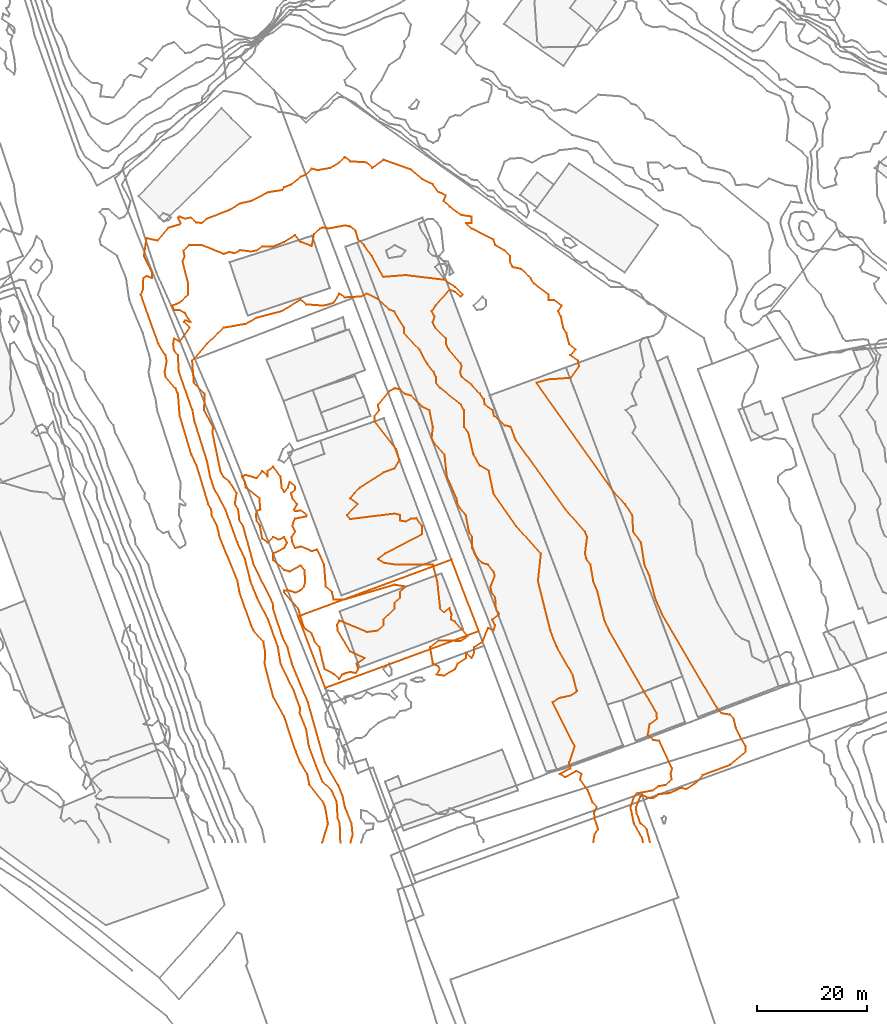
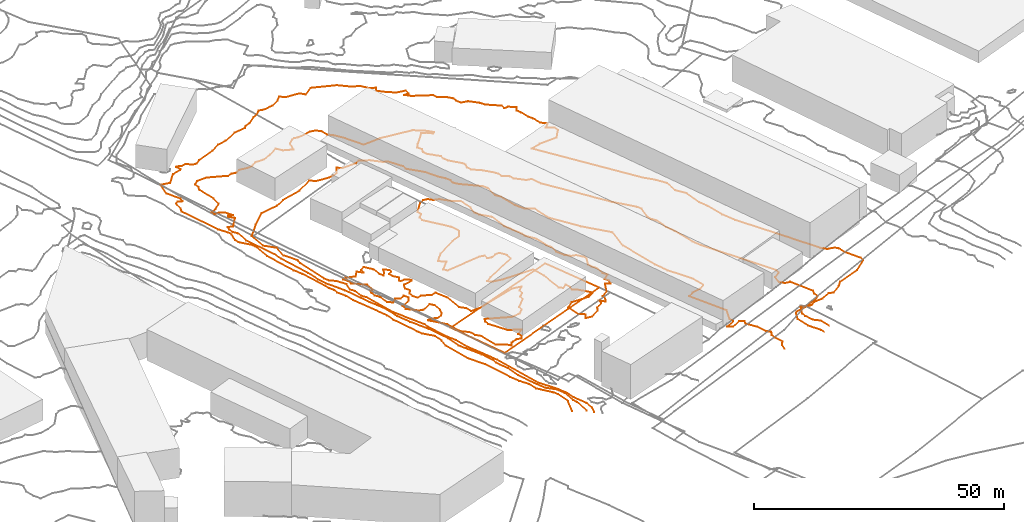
# Not in any storey, part 162 of 419: 6 proxies.
"""IFC2X3 model written with IfcOpenShell, lengths in metres."""

import ifcopenshell
import ifcopenshell.guid

model = None  # the IFC model being written
_history = None  # IfcOwnerHistory: only IFC2X3 demands one
_inside = {}  # id of a spatial element -> (the spatial element, [elements in it])
_under = {}  # id of a project, library or spatial element -> (it, [spatial elements below it])
_declared = {}  # id of a project -> (the project, [libraries it declares])
_typed = {}  # id of a type object -> (the type object, [elements of that type])
_made_of = {}  # id of a material, layer set ... -> (it, [elements and type objects made of it])


def new_model(schema):
    """Start an empty IFC model of exactly this schema.

    Asked for "IFC4X3", IfcOpenShell would pick the latest addendum, in which some entities
    have other attributes; the version numbers below select the first issue.
    IFC2X3 requires an IfcOwnerHistory on every rooted entity: one is made here for all.
    """
    global model, _history
    if schema == "IFC4X3":
        model = ifcopenshell.file(schema_version=(4, 3, 0, 0))
    else:
        model = ifcopenshell.file(schema=schema)
    _inside.clear()
    _under.clear()
    _declared.clear()
    _typed.clear()
    _made_of.clear()
    _history = None
    if model.schema == "IFC2X3":
        org = make("IfcOrganization", Name="unknown")
        user = make(
            "IfcPersonAndOrganization",
            ThePerson=make("IfcPerson", FamilyName="unknown"),
            TheOrganization=org,
        )
        app = make(
            "IfcApplication",
            ApplicationDeveloper=org,
            Version="unknown",
            ApplicationFullName="unknown",
            ApplicationIdentifier="unknown",
        )
        _history = make(
            "IfcOwnerHistory",
            OwningUser=user,
            OwningApplication=app,
            ChangeAction="ADDED",
            CreationDate=0,
        )
    return model


def make(cls, **values):
    """One entity of the class cls with the attributes given. An attribute that is None is left unset."""
    return model.create_entity(
        cls, **{name: value for name, value in values.items() if value is not None}
    )


def entity(cls, *values):
    """Any entity or typed value of the class cls, its attributes in the order of the schema. None: left unset."""
    e = model.create_entity(cls)
    for i, value in enumerate(values):
        if value is not None:
            e[i] = value
    return e


def rooted(cls, **values):
    """An entity with a GlobalId (a new one), such as an element, a storey or a relation."""
    return make(cls, GlobalId=ifcopenshell.guid.new(), OwnerHistory=_history, **values)


def si_unit(unit_type, name, prefix=None):
    """IfcSIUnit, for example si_unit("LENGTHUNIT", "METRE", prefix="MILLI")."""
    return make("IfcSIUnit", UnitType=unit_type, Prefix=prefix, Name=name)


def assignment(units):
    """IfcUnitAssignment: the units of a project."""
    return None if units is None else make("IfcUnitAssignment", Units=units)


def point(xyz):
    """IfcCartesianPoint."""
    return None if xyz is None else make("IfcCartesianPoint", Coordinates=xyz)


def direction(xyz):
    """IfcDirection."""
    return None if xyz is None else make("IfcDirection", DirectionRatios=xyz)


def frame(location, z_axis=None, x_axis=None):
    """IfcAxis2Placement3D, a coordinate frame: its origin and axes. An axis left out is left unset."""
    return make(
        "IfcAxis2Placement3D",
        Location=point(location),
        Axis=direction(z_axis),
        RefDirection=direction(x_axis),
    )


def origin_with_axes():
    """The frame at (0, 0, 0) with the z axis (0, 0, 1) and the x axis (1, 0, 0) written out."""
    return frame((0.0, 0.0, 0.0), z_axis=(0.0, 0.0, 1.0), x_axis=(1.0, 0.0, 0.0))


def place(relative_to, where):
    """IfcLocalPlacement: puts the frame where relative to a parent placement (None: the world)."""
    return make(
        "IfcLocalPlacement", PlacementRelTo=relative_to, RelativePlacement=where
    )


def context(
    kind, dimensions, precision=None, world=None, true_north=None, identifier=None
):
    """IfcGeometricRepresentationContext, for example the 3D "Model" context."""
    return make(
        "IfcGeometricRepresentationContext",
        ContextIdentifier=identifier,
        ContextType=kind,
        CoordinateSpaceDimension=dimensions,
        Precision=precision,
        WorldCoordinateSystem=world,
        TrueNorth=true_north,
    )


def subcontext(parent, identifier, kind, view, scale=None):
    """IfcGeometricRepresentationSubContext, for example "Body" below "Model"."""
    return make(
        "IfcGeometricRepresentationSubContext",
        ContextIdentifier=identifier,
        ContextType=kind,
        ParentContext=parent,
        TargetScale=scale,
        TargetView=view,
    )


def project(units=None, contexts=None):
    """IfcProject with its units and contexts."""
    return rooted(
        "IfcProject",
        Name="project",
        RepresentationContexts=contexts,
        UnitsInContext=assignment(units),
    )


def shape(context_of_items, identifier, shape_type, items):
    """IfcShapeRepresentation: the items that make up one representation, for example the "Body"."""
    return make(
        "IfcShapeRepresentation",
        ContextOfItems=context_of_items,
        RepresentationIdentifier=identifier,
        RepresentationType=shape_type,
        Items=items,
    )


def made_of(thing, what):
    """Note that an element or type object is made of a material, layer set ...; save() writes the relation."""
    if what is not None:
        _made_of.setdefault(what.id(), (what, []))[1].append(thing)
    return thing


def element(
    cls,
    number,
    at=None,
    inside=None,
    cuts=None,
    type_object=None,
    material=None,
    context=None,
    identifier="Body",
    shape_type=None,
    held_by="IfcProductDefinitionShape",
    body=None,
    shapes=None,
    **own,
):
    """One element of the class cls, such as IfcWall. Its Tag is "e" and its number.

    at: its placement. inside: the storey or other place that contains it. cuts: it is an
    opening in that element (IfcRelVoidsElement). A single representation is given by context,
    identifier, shape_type and body (its items); several are given by shapes. held_by: the class
    of the entity that holds the representations. save() writes the other relations.
    """
    e = rooted(cls, Tag="e%d" % number, ObjectPlacement=at, **own)
    if body is not None:
        shapes = [shape(context, identifier, shape_type, body)]
    if shapes is not None:
        e.Representation = make(held_by, Representations=shapes)
    if inside is not None:
        _inside.setdefault(inside.id(), (inside, []))[1].append(e)
    if cuts is not None:
        rooted(
            "IfcRelVoidsElement", RelatingBuildingElement=cuts, RelatedOpeningElement=e
        )
    if type_object is not None:
        _typed.setdefault(type_object.id(), (type_object, []))[1].append(e)
    return made_of(e, material)


def aggregate(whole, parts):
    """IfcRelAggregates: a whole, such as a stair, and the parts it consists of."""
    return rooted("IfcRelAggregates", RelatingObject=whole, RelatedObjects=parts)


def save(model, path):
    """Write the relations noted so far, then the file.

    IfcRelAggregates (storeys below a building ...), IfcRelContainedInSpatialStructure (elements
    in a storey), IfcRelDefinesByType, IfcRelAssociatesMaterial and IfcRelDeclares: one each for
    every whole, place, type object, material and project.
    """
    for whole, parts in _under.values():
        aggregate(whole, parts)
    for where, things in _inside.values():
        rooted(
            "IfcRelContainedInSpatialStructure",
            RelatedElements=things,
            RelatingStructure=where,
        )
    for kind, things in _typed.values():
        rooted("IfcRelDefinesByType", RelatedObjects=things, RelatingType=kind)
    for what, things in _made_of.values():
        rooted("IfcRelAssociatesMaterial", RelatedObjects=things, RelatingMaterial=what)
    for by, libraries in _declared.values():
        rooted("IfcRelDeclares", RelatingContext=by, RelatedDefinitions=libraries)
    model.write(path)


model = new_model("IFC2X3")

# Units and contexts
model_context = context("Model", 3, precision=1e-05, world=origin_with_axes())
body_context = subcontext(model_context, "Body", "Model", "MODEL_VIEW")
ifc_project = project(units=[si_unit("AREAUNIT", "SQUARE_METRE"), si_unit("LENGTHUNIT", "METRE")], contexts=[model_context])

# Proxies
proxy_1_placement = place(None, frame((340.6220204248, 39.4876909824, 20.0132113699), z_axis=(0.0, 0.0, 1.0), x_axis=(1.0, 0.0, 0.0)))
element("IfcBuildingElementProxy", 1, at=proxy_1_placement, Name="Cadastre 371", ObjectType="NOTDEFINED", context=body_context, shape_type="GeometricCurveSet", body=[
    entity("IfcGeometricCurveSet", [entity("IfcPolyline", [entity("IfcCartesianPoint", [0.0, 0.0, 0.0]), entity("IfcCartesianPoint", [27.83, 10.3100000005, -0.2680914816]), entity("IfcCartesianPoint", [32.8, -2.6899999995, -0.0289117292]), entity("IfcCartesianPoint", [4.9299999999, -12.9899999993, -0.007931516]), entity("IfcCartesianPoint", [0.0, 0.0, 0.0])])]),
])
proxy_2_placement = place(None, frame((330.4253537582, 64.8976909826, 20.0), z_axis=(0.0, 0.0, 1.0), x_axis=(1.0, 0.0, 0.0)))
element("IfcBuildingElementProxy", 2, at=proxy_2_placement, Name="Contour 20.0 m", ObjectType="NOTDEFINED", context=body_context, shape_type="GeometricCurveSet", body=[
    entity("IfcGeometricCurveSet", [entity("IfcPolyline", [entity("IfcCartesianPoint", [17.6666666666, -36.7999999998, 0.0]), entity("IfcCartesianPoint", [18.1666541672, -36.0, 0.0]), entity("IfcCartesianPoint", [18.6666666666, -35.7647006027, 0.0]), entity("IfcCartesianPoint", [19.6666666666, -35.4999916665, 0.0]), entity("IfcCartesianPoint", [20.6666666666, -35.7142779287, 0.0]), entity("IfcCartesianPoint", [21.0833306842, -35.0, 0.0]), entity("IfcCartesianPoint", [20.848488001, -34.0, 0.0]), entity("IfcCartesianPoint", [22.2666666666, -33.0, 0.0]), entity("IfcCartesianPoint", [19.6666666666, -31.7999999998, 0.0]), entity("IfcCartesianPoint", [17.3939409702, -28.0, 0.0]), entity("IfcCartesianPoint", [17.2738083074, -27.0, 0.0]), entity("IfcCartesianPoint", [17.6666666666, -26.1538484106, 0.0]), entity("IfcCartesianPoint", [22.6666666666, -28.2500059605, 0.0]), entity("IfcCartesianPoint", [24.6665666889, -28.0, 0.0]), entity("IfcCartesianPoint", [25.6665666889, -27.0, 0.0]), entity("IfcCartesianPoint", [25.6665666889, -26.0, 0.0]), entity("IfcCartesianPoint", [27.6665666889, -24.0, 0.0]), entity("IfcCartesianPoint", [27.6665666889, -23.0, 0.0]), entity("IfcCartesianPoint", [28.6665666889, -22.0, 0.0]), entity("IfcCartesianPoint", [28.6665666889, -21.0, 0.0]), entity("IfcCartesianPoint", [29.6665666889, -20.0, 0.0]), entity("IfcCartesianPoint", [27.6666666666, -19.666666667, 0.0]), entity("IfcCartesianPoint", [18.6666666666, -22.333333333, 0.0]), entity("IfcCartesianPoint", [16.6666666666, -22.4000000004, 0.0]), entity("IfcCartesianPoint", [16.3333375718, -21.0, 0.0]), entity("IfcCartesianPoint", [15.2222128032, -20.0, 0.0]), entity("IfcCartesianPoint", [14.9166642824, -16.0, 0.0]), entity("IfcCartesianPoint", [13.6666666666, -13.250003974, 0.0]), entity("IfcCartesianPoint", [12.6666666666, -13.5714285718, 0.0]), entity("IfcCartesianPoint", [10.6666666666, -12.7142779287, 0.0]), entity("IfcCartesianPoint", [9.6666666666, -13.0000249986, 0.0]), entity("IfcCartesianPoint", [9.1666166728, -12.0, 0.0]), entity("IfcCartesianPoint", [9.0, -11.0, 0.0]), entity("IfcCartesianPoint", [9.6666166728, -10.0, 0.0]), entity("IfcCartesianPoint", [9.1666166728, -9.0, 0.0]), entity("IfcCartesianPoint", [9.4166666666, -8.0, 0.0]), entity("IfcCartesianPoint", [9.6666666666, -7.666666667, 0.0]), entity("IfcCartesianPoint", [11.6666666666, -7.2500059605, 0.0]), entity("IfcCartesianPoint", [11.7619064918, -7.0, 0.0]), entity("IfcCartesianPoint", [10.6666666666, -6.1666719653, 0.0]), entity("IfcCartesianPoint", [9.6666666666, -6.333333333, 0.0]), entity("IfcCartesianPoint", [9.4999947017, -6.0, 0.0]), entity("IfcCartesianPoint", [10.0000052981, -5.0, 0.0]), entity("IfcCartesianPoint", [9.1666500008, -4.0, 0.0]), entity("IfcCartesianPoint", [8.9166666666, -3.0, 0.0]), entity("IfcCartesianPoint", [9.6666666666, -2.4000000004, 0.0]), entity("IfcCartesianPoint", [9.6666666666, -1.8333306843, 0.0]), entity("IfcCartesianPoint", [8.6666666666, -1.0000499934, 0.0]), entity("IfcCartesianPoint", [8.3333333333, -2.0, 0.0]), entity("IfcCartesianPoint", [7.6666666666, -2.7999999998, 0.0]), entity("IfcCartesianPoint", [7.2222128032, -2.0, 0.0]), entity("IfcCartesianPoint", [7.0, 0.0, 0.0]), entity("IfcCartesianPoint", [5.6666666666, 1.75, 0.0]), entity("IfcCartesianPoint", [4.666699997, 1.0, 0.0]), entity("IfcCartesianPoint", [4.6667166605, 0.0, 0.0]), entity("IfcCartesianPoint", [3.6666666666, 0.9999500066, 0.0]), entity("IfcCartesianPoint", [2.6666666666, -0.333333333, 0.0]), entity("IfcCartesianPoint", [0.6666666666, 0.2500059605, 0.0]), entity("IfcCartesianPoint", [0.0, 0.0, 0.0]), entity("IfcCartesianPoint", [0.5333299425, -1.0, 0.0]), entity("IfcCartesianPoint", [0.666699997, -2.0, 0.0]), entity("IfcCartesianPoint", [3.1667166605, -4.0, 0.0]), entity("IfcCartesianPoint", [3.3333333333, -6.0, 0.0]), entity("IfcCartesianPoint", [2.6666666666, -6.2857220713, 0.0]), entity("IfcCartesianPoint", [2.5277793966, -7.0, 0.0]), entity("IfcCartesianPoint", [2.6666666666, -7.9999800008, 0.0]), entity("IfcCartesianPoint", [3.2820546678, -9.0, 0.0]), entity("IfcCartesianPoint", [3.6666666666, -11.2941130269, 0.0]), entity("IfcCartesianPoint", [4.6666666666, -11.9999857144, 0.0]), entity("IfcCartesianPoint", [5.6666666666, -10.9999666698, 0.0]), entity("IfcCartesianPoint", [6.6666666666, -11.499983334, 0.0]), entity("IfcCartesianPoint", [7.6666666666, -10.9999000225, 0.0]), entity("IfcCartesianPoint", [8.1667166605, -12.0, 0.0]), entity("IfcCartesianPoint", [7.6666866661, -13.0, 0.0]), entity("IfcCartesianPoint", [5.666699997, -14.0, 0.0]), entity("IfcCartesianPoint", [5.6666666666, -15.2222269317, 0.0]), entity("IfcCartesianPoint", [7.6667166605, -17.0, 0.0]), entity("IfcCartesianPoint", [8.6666666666, -17.2500059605, 0.0]), entity("IfcCartesianPoint", [10.6666666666, -16.1428610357, 0.0]), entity("IfcCartesianPoint", [11.3333262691, -17.0, 0.0]), entity("IfcCartesianPoint", [11.4999947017, -19.0, 0.0]), entity("IfcCartesianPoint", [11.2380952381, -20.0, 0.0]), entity("IfcCartesianPoint", [10.6666666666, -20.666666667, 0.0]), entity("IfcCartesianPoint", [9.6666666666, -21.1250029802, 0.0]), entity("IfcCartesianPoint", [8.6666666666, -20.75, 0.0]), entity("IfcCartesianPoint", [7.6666666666, -20.75, 0.0]), entity("IfcCartesianPoint", [7.6296288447, -21.0, 0.0]), entity("IfcCartesianPoint", [10.2222233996, -24.0, 0.0]), entity("IfcCartesianPoint", [11.0877177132, -27.0, 0.0]), entity("IfcCartesianPoint", [11.6666666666, -27.8461515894, 0.0]), entity("IfcCartesianPoint", [12.6666666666, -28.4999900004, 0.0]), entity("IfcCartesianPoint", [13.2222128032, -30.0, 0.0]), entity("IfcCartesianPoint", [14.066674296, -31.0, 0.0]), entity("IfcCartesianPoint", [15.0, -35.0, 0.0]), entity("IfcCartesianPoint", [16.6666666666, -35.8571389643, 0.0]), entity("IfcCartesianPoint", [17.6666666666, -36.7999999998, 0.0])])]),
])
proxy_3_placement = place(None, frame((349.4920204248, 57.8976909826, 20.0), z_axis=(0.0, 0.0, 1.0), x_axis=(1.0, 0.0, 0.0)))
element("IfcBuildingElementProxy", 3, at=proxy_3_placement, Name="Contour 20.0 m", ObjectType="NOTDEFINED", context=body_context, shape_type="GeometricCurveSet", body=[
    entity("IfcGeometricCurveSet", [entity("IfcPolyline", [entity("IfcCartesianPoint", [17.6, -29.1666719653, 0.0]), entity("IfcCartesianPoint", [19.5999500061, -28.0, 0.0]), entity("IfcCartesianPoint", [20.0999500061, -27.0, 0.0]), entity("IfcCartesianPoint", [21.5999000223, -26.0, 0.0]), entity("IfcCartesianPoint", [21.5999500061, -25.0, 0.0]), entity("IfcCartesianPoint", [22.6, -25.9999500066, 0.0]), entity("IfcCartesianPoint", [23.0999750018, -25.0, 0.0]), entity("IfcCartesianPoint", [23.0999500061, -24.0, 0.0]), entity("IfcCartesianPoint", [24.6, -22.9999000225, 0.0]), entity("IfcCartesianPoint", [25.6, -20.4999500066, 0.0]), entity("IfcCartesianPoint", [26.6, -20.9999500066, 0.0]), entity("IfcCartesianPoint", [26.8857220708, -20.0, 0.0]), entity("IfcCartesianPoint", [26.35, -19.0, 0.0]), entity("IfcCartesianPoint", [27.6588248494, -18.0, 0.0]), entity("IfcCartesianPoint", [27.0444538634, -17.0, 0.0]), entity("IfcCartesianPoint", [26.910344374, -15.0, 0.0]), entity("IfcCartesianPoint", [26.2363628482, -14.0, 0.0]), entity("IfcCartesianPoint", [26.0705875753, -13.0, 0.0]), entity("IfcCartesianPoint", [26.8307726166, -11.0, 0.0]), entity("IfcCartesianPoint", [26.6, -10.25, 0.0]), entity("IfcCartesianPoint", [25.6, -9.0000199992, 0.0]), entity("IfcCartesianPoint", [24.6, -8.7499940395, 0.0]), entity("IfcCartesianPoint", [23.6, -7.7777730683, 0.0]), entity("IfcCartesianPoint", [22.7250029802, -6.0, 0.0]), entity("IfcCartesianPoint", [22.7200027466, -4.0, 0.0]), entity("IfcCartesianPoint", [22.1483882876, -3.0, 0.0]), entity("IfcCartesianPoint", [21.6, -0.1428610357, 0.0]), entity("IfcCartesianPoint", [20.0615373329, 2.0, 0.0]), entity("IfcCartesianPoint", [19.8916656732, 3.0, 0.0]), entity("IfcCartesianPoint", [18.1454561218, 7.0, 0.0]), entity("IfcCartesianPoint", [17.6952398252, 11.0, 0.0]), entity("IfcCartesianPoint", [15.8777760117, 13.0, 0.0]), entity("IfcCartesianPoint", [15.3647006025, 14.0, 0.0]), entity("IfcCartesianPoint", [15.5999909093, 16.0, 0.0]), entity("IfcCartesianPoint", [14.9846119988, 19.0, 0.0]), entity("IfcCartesianPoint", [13.6, 19.6666613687, 0.0]), entity("IfcCartesianPoint", [11.6, 21.666659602, 0.0]), entity("IfcCartesianPoint", [10.4333280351, 22.0, 0.0]), entity("IfcCartesianPoint", [9.6, 22.8333280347, 0.0]), entity("IfcCartesianPoint", [8.6, 22.9999800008, 0.0]), entity("IfcCartesianPoint", [7.6, 22.4000000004, 0.0]), entity("IfcCartesianPoint", [5.6000166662, 20.0, 0.0]), entity("IfcCartesianPoint", [5.8500059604, 19.0, 0.0]), entity("IfcCartesianPoint", [4.9750089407, 18.0, 0.0]), entity("IfcCartesianPoint", [4.9750009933, 17.0, 0.0]), entity("IfcCartesianPoint", [8.9333298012, 12.0, 0.0]), entity("IfcCartesianPoint", [9.5199981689, 10.0, 0.0]), entity("IfcCartesianPoint", [8.6, 8.4615373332, 0.0]), entity("IfcCartesianPoint", [6.6, 7.7142779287, 0.0]), entity("IfcCartesianPoint", [2.35, 5.0, 0.0]), entity("IfcCartesianPoint", [1.35, 4.0, 0.0]), entity("IfcCartesianPoint", [0.6000249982, 3.0, 0.0]), entity("IfcCartesianPoint", [1.9333333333, 2.0, 0.0]), entity("IfcCartesianPoint", [0.0, 0.0, 0.0]), entity("IfcCartesianPoint", [0.6, -0.75, 0.0]), entity("IfcCartesianPoint", [8.6, 0.25, 0.0]), entity("IfcCartesianPoint", [9.6000999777, 0.0, 0.0]), entity("IfcCartesianPoint", [9.6000999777, -1.0, 0.0]), entity("IfcCartesianPoint", [10.6, -1.2000000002, 0.0]), entity("IfcCartesianPoint", [11.6, -0.666666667, 0.0]), entity("IfcCartesianPoint", [12.6, -0.5999999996, 0.0]), entity("IfcCartesianPoint", [13.6, -1.9999923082, 0.0]), entity("IfcCartesianPoint", [13.6, -3.500016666, 0.0]), entity("IfcCartesianPoint", [6.9333333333, -7.0, 0.0]), entity("IfcCartesianPoint", [5.6000499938, -8.0, 0.0]), entity("IfcCartesianPoint", [6.6, -8.666666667, 0.0]), entity("IfcCartesianPoint", [8.6, -8.9999666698, 0.0]), entity("IfcCartesianPoint", [15.6, -8.999983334, 0.0]), entity("IfcCartesianPoint", [16.4, -12.0, 0.0]), entity("IfcCartesianPoint", [16.9333333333, -17.0, 0.0]), entity("IfcCartesianPoint", [17.6, -17.666666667, 0.0]), entity("IfcCartesianPoint", [18.6, -16.8888865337, 0.0]), entity("IfcCartesianPoint", [18.9684184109, -18.0, 0.0]), entity("IfcCartesianPoint", [18.8857220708, -19.0, 0.0]), entity("IfcCartesianPoint", [19.6, -19.3571389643, 0.0]), entity("IfcCartesianPoint", [21.9333333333, -22.0, 0.0]), entity("IfcCartesianPoint", [20.6, -22.8749970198, 0.0]), entity("IfcCartesianPoint", [16.6, -22.7878796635, 0.0]), entity("IfcCartesianPoint", [15.1000249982, -24.0, 0.0]), entity("IfcCartesianPoint", [15.6000999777, -27.0, 0.0]), entity("IfcCartesianPoint", [16.6, -27.4999500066, 0.0]), entity("IfcCartesianPoint", [16.85, -28.0, 0.0]), entity("IfcCartesianPoint", [16.2666666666, -29.0, 0.0]), entity("IfcCartesianPoint", [17.6, -29.1666719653, 0.0])])]),
])
proxy_4_placement = place(None, frame((321.3883169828, 85.8976909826, 21.0), z_axis=(0.0, 0.0, 1.0), x_axis=(1.0, 0.0, 0.0)))
element("IfcBuildingElementProxy", 4, at=proxy_4_placement, Name="Contour 21.0 m", ObjectType="NOTDEFINED", context=body_context, shape_type="GeometricCurveSet", body=[
    entity("IfcGeometricCurveSet", [entity("IfcPolyline", [entity("IfcCartesianPoint", [72.8287064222, -87.5, 0.0]), entity("IfcCartesianPoint", [73.0370367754, -86.0, 0.0]), entity("IfcCartesianPoint", [73.7036867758, -85.0, 0.0]), entity("IfcCartesianPoint", [73.0370438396, -83.0, 0.0]), entity("IfcCartesianPoint", [72.9894255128, -82.0, 0.0]), entity("IfcCartesianPoint", [73.453703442, -81.0, 0.0]), entity("IfcCartesianPoint", [72.703703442, -80.25, 0.0]), entity("IfcCartesianPoint", [71.8465644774, -78.0, 0.0]), entity("IfcCartesianPoint", [70.4179813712, -76.0, 0.0]), entity("IfcCartesianPoint", [70.7036701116, -75.0, 0.0]), entity("IfcCartesianPoint", [69.703703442, -74.500016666, 0.0]), entity("IfcCartesianPoint", [67.703703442, -75.6111134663, 0.0]), entity("IfcCartesianPoint", [66.7036995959, -75.0, 0.0]), entity("IfcCartesianPoint", [68.7036934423, -74.0, 0.0]), entity("IfcCartesianPoint", [68.4179813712, -73.0, 0.0]), entity("IfcCartesianPoint", [69.4536974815, -70.0, 0.0]), entity("IfcCartesianPoint", [65.4179813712, -62.0, 0.0]), entity("IfcCartesianPoint", [66.703703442, -61.2000038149, 0.0]), entity("IfcCartesianPoint", [68.703703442, -60.7999961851, 0.0]), entity("IfcCartesianPoint", [69.8465644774, -60.0, 0.0]), entity("IfcCartesianPoint", [69.0787123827, -57.0, 0.0]), entity("IfcCartesianPoint", [66.2036909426, -52.0, 0.0]), entity("IfcCartesianPoint", [65.0370438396, -49.0, 0.0]), entity("IfcCartesianPoint", [62.7870380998, -40.0, 0.0]), entity("IfcCartesianPoint", [63.3036958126, -35.0, 0.0]), entity("IfcCartesianPoint", [58.8287064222, -30.0, 0.0]), entity("IfcCartesianPoint", [54.703703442, -24.1428610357, 0.0]), entity("IfcCartesianPoint", [53.8575518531, -20.0, 0.0]), entity("IfcCartesianPoint", [52.2036909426, -19.0, 0.0]), entity("IfcCartesianPoint", [51.0608424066, -17.0, 0.0]), entity("IfcCartesianPoint", [50.1247544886, -13.0, 0.0]), entity("IfcCartesianPoint", [49.3703701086, -12.0, 0.0]), entity("IfcCartesianPoint", [49.3333322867, -9.0, 0.0]), entity("IfcCartesianPoint", [48.8089687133, -8.0, 0.0]), entity("IfcCartesianPoint", [45.0787004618, -5.0, 0.0]), entity("IfcCartesianPoint", [44.2491587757, -4.0, 0.0]), entity("IfcCartesianPoint", [44.2637010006, -3.0, 0.0]), entity("IfcCartesianPoint", [43.8370401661, -2.0, 0.0]), entity("IfcCartesianPoint", [42.703703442, -0.6363573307, 0.0]), entity("IfcCartesianPoint", [41.3037053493, 2.0, 0.0]), entity("IfcCartesianPoint", [38.4684040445, 5.0, 0.0]), entity("IfcCartesianPoint", [38.4684040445, 6.0, 0.0]), entity("IfcCartesianPoint", [36.703703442, 8.9090893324, 0.0]), entity("IfcCartesianPoint", [35.703703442, 9.333340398, 0.0]), entity("IfcCartesianPoint", [33.703703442, 11.1666719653, 0.0]), entity("IfcCartesianPoint", [31.703703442, 12.2000000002, 0.0]), entity("IfcCartesianPoint", [30.703703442, 11.666659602, 0.0]), entity("IfcCartesianPoint", [27.703703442, 11.499983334, 0.0]), entity("IfcCartesianPoint", [26.703703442, 12.2000038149, 0.0]), entity("IfcCartesianPoint", [25.703703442, 10.5333341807, 0.0]), entity("IfcCartesianPoint", [24.703703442, 10.2222269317, 0.0]), entity("IfcCartesianPoint", [23.703703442, 9.9999937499, 0.0]), entity("IfcCartesianPoint", [20.703703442, 10.2222269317, 0.0]), entity("IfcCartesianPoint", [19.703703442, 11.100001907, 0.0]), entity("IfcCartesianPoint", [16.2037201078, 9.0, 0.0]), entity("IfcCartesianPoint", [11.703703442, 7.8124955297, 0.0]), entity("IfcCartesianPoint", [9.703703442, 6.6956528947, 0.0]), entity("IfcCartesianPoint", [5.7037117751, 6.0, 0.0]), entity("IfcCartesianPoint", [2.703703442, 3.1250029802, 0.0]), entity("IfcCartesianPoint", [0.0, 0.0, 0.0]), entity("IfcCartesianPoint", [0.3004781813, -4.0, 0.0]), entity("IfcCartesianPoint", [2.2751320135, -6.0, 0.0]), entity("IfcCartesianPoint", [2.1627205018, -9.0, 0.0]), entity("IfcCartesianPoint", [3.8118137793, -12.0, 0.0]), entity("IfcCartesianPoint", [3.6759250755, -13.0, 0.0]), entity("IfcCartesianPoint", [5.1322733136, -20.0, 0.0]), entity("IfcCartesianPoint", [5.703703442, -21.1578979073, 0.0]), entity("IfcCartesianPoint", [6.8148169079, -22.0, 0.0]), entity("IfcCartesianPoint", [8.0537022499, -24.0, 0.0]), entity("IfcCartesianPoint", [7.7491591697, -26.0, 0.0]), entity("IfcCartesianPoint", [8.3507655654, -27.0, 0.0]), entity("IfcCartesianPoint", [8.5755000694, -29.0, 0.0]), entity("IfcCartesianPoint", [9.2554289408, -30.0, 0.0]), entity("IfcCartesianPoint", [11.1679900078, -37.0, 0.0]), entity("IfcCartesianPoint", [14.6322734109, -44.0, 0.0]), entity("IfcCartesianPoint", [14.6844722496, -45.0, 0.0]), entity("IfcCartesianPoint", [16.328703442, -50.0, 0.0]), entity("IfcCartesianPoint", [17.3074778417, -52.0, 0.0]), entity("IfcCartesianPoint", [18.0965597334, -55.0, 0.0]), entity("IfcCartesianPoint", [21.0085816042, -62.0, 0.0]), entity("IfcCartesianPoint", [24.1218850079, -73.0, 0.0]), entity("IfcCartesianPoint", [26.4795669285, -77.0, 0.0]), entity("IfcCartesianPoint", [27.3123987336, -79.0, 0.0]), entity("IfcCartesianPoint", [27.7212477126, -81.0, 0.0]), entity("IfcCartesianPoint", [28.9278399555, -84.0, 0.0]), entity("IfcCartesianPoint", [29.1322755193, -86.0, 0.0]), entity("IfcCartesianPoint", [28.740067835, -87.5, 0.0])])]),
])
proxy_5_placement = place(None, frame((317.7795248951, 95.8976909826, 22.0), z_axis=(0.0, 0.0, 1.0), x_axis=(1.0, 0.0, 0.0)))
element("IfcBuildingElementProxy", 5, at=proxy_5_placement, Name="Contour 22.0 m", ObjectType="NOTDEFINED", context=body_context, shape_type="GeometricCurveSet", body=[
    entity("IfcGeometricCurveSet", [entity("IfcPolyline", [entity("IfcCartesianPoint", [85.4636575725, -97.5, 0.0]), entity("IfcCartesianPoint", [85.3124955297, -96.638889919, 0.0]), entity("IfcCartesianPoint", [83.8067482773, -94.0, 0.0]), entity("IfcCartesianPoint", [83.185912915, -91.0, 0.0]), entity("IfcCartesianPoint", [83.9080010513, -89.0, 0.0]), entity("IfcCartesianPoint", [84.3124955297, -88.5662642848, 0.0]), entity("IfcCartesianPoint", [87.2324936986, -88.0, 0.0]), entity("IfcCartesianPoint", [88.3124955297, -87.2575759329, 0.0]), entity("IfcCartesianPoint", [89.5432625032, -87.0, 0.0]), entity("IfcCartesianPoint", [90.6761381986, -86.0, 0.0]), entity("IfcCartesianPoint", [90.4791674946, -85.0, 0.0]), entity("IfcCartesianPoint", [90.7499940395, -84.0, 0.0]), entity("IfcCartesianPoint", [88.3894197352, -79.0, 0.0]), entity("IfcCartesianPoint", [87.3124955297, -78.8571389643, 0.0]), entity("IfcCartesianPoint", [86.3124788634, -78.0, 0.0]), entity("IfcCartesianPoint", [86.645828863, -76.0, 0.0]), entity("IfcCartesianPoint", [87.9791621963, -75.0, 0.0]), entity("IfcCartesianPoint", [87.937486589, -74.0, 0.0]), entity("IfcCartesianPoint", [79.3124955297, -59.0000199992, 0.0]), entity("IfcCartesianPoint", [78.4236089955, -57.0, 0.0]), entity("IfcCartesianPoint", [77.2124936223, -52.0, 0.0]), entity("IfcCartesianPoint", [76.4236089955, -50.0, 0.0]), entity("IfcCartesianPoint", [75.9124879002, -47.0, 0.0]), entity("IfcCartesianPoint", [75.1874925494, -46.0, 0.0]), entity("IfcCartesianPoint", [74.9278835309, -45.0, 0.0]), entity("IfcCartesianPoint", [75.3124871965, -42.0, 0.0]), entity("IfcCartesianPoint", [74.9124879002, -41.0, 0.0]), entity("IfcCartesianPoint", [71.4236089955, -37.0, 0.0]), entity("IfcCartesianPoint", [62.3124955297, -24.2857220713, 0.0]), entity("IfcCartesianPoint", [61.4553565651, -22.0, 0.0]), entity("IfcCartesianPoint", [60.3124955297, -21.7272679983, 0.0]), entity("IfcCartesianPoint", [58.4374985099, -20.0, 0.0]), entity("IfcCartesianPoint", [58.1545976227, -19.0, 0.0]), entity("IfcCartesianPoint", [56.7499940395, -18.0, 0.0]), entity("IfcCartesianPoint", [56.5624955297, -17.0, 0.0]), entity("IfcCartesianPoint", [55.8624964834, -16.0, 0.0]), entity("IfcCartesianPoint", [54.3124955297, -14.3333298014, 0.0]), entity("IfcCartesianPoint", [52.5791655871, -13.0, 0.0]), entity("IfcCartesianPoint", [52.2355707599, -12.0, 0.0]), entity("IfcCartesianPoint", [52.5505881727, -11.0, 0.0]), entity("IfcCartesianPoint", [52.3124955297, -10.4444538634, 0.0]), entity("IfcCartesianPoint", [50.2072302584, -8.0, 0.0]), entity("IfcCartesianPoint", [49.7215884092, -7.0, 0.0]), entity("IfcCartesianPoint", [49.7410650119, -6.0, 0.0]), entity("IfcCartesianPoint", [47.7499940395, -4.0, 0.0]), entity("IfcCartesianPoint", [47.2670398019, -3.0, 0.0]), entity("IfcCartesianPoint", [47.628284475, -2.0, 0.0]), entity("IfcCartesianPoint", [47.1124929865, -1.0, 0.0]), entity("IfcCartesianPoint", [47.7861792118, 0.0, 0.0]), entity("IfcCartesianPoint", [50.3124955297, 2.9411751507, 0.0]), entity("IfcCartesianPoint", [51.3124955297, 2.5142860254, 0.0]), entity("IfcCartesianPoint", [52.3124955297, 1.6354166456, 0.0]), entity("IfcCartesianPoint", [52.7291625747, 2.0, 0.0]), entity("IfcCartesianPoint", [51.3124955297, 3.3863633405, 0.0]), entity("IfcCartesianPoint", [49.3124955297, 4.7000009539, 0.0]), entity("IfcCartesianPoint", [42.3124955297, 5.5500009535, 0.0]), entity("IfcCartesianPoint", [38.3124955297, 5.2222269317, 0.0]), entity("IfcCartesianPoint", [36.2267793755, 9.0, 0.0]), entity("IfcCartesianPoint", [34.8219296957, 11.0, 0.0]), entity("IfcCartesianPoint", [33.7163410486, 12.0, 0.0]), entity("IfcCartesianPoint", [33.3124955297, 13.5652148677, 0.0]), entity("IfcCartesianPoint", [32.3124955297, 14.3846119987, 0.0]), entity("IfcCartesianPoint", [31.3124955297, 14.5714305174, 0.0]), entity("IfcCartesianPoint", [28.3124955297, 13.9999857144, 0.0]), entity("IfcCartesianPoint", [27.3124955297, 14.1875044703, 0.0]), entity("IfcCartesianPoint", [26.8125121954, 14.0, 0.0]), entity("IfcCartesianPoint", [25.7125031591, 13.0, 0.0]), entity("IfcCartesianPoint", [25.3124955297, 10.7999999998, 0.0]), entity("IfcCartesianPoint", [23.3124955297, 11.5833359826, 0.0]), entity("IfcCartesianPoint", [22.3124955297, 12.8235254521, 0.0]), entity("IfcCartesianPoint", [20.3124955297, 11.5833328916, 0.0]), entity("IfcCartesianPoint", [18.3124955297, 10.7499989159, 0.0]), entity("IfcCartesianPoint", [16.3124955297, 10.7741941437, 0.0]), entity("IfcCartesianPoint", [15.3124955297, 10.0400009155, 0.0]), entity("IfcCartesianPoint", [14.3124955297, 9.8139537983, 0.0]), entity("IfcCartesianPoint", [12.3124955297, 10.0769247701, 0.0]), entity("IfcCartesianPoint", [11.3124955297, 9.5185190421, 0.0]), entity("IfcCartesianPoint", [10.3124955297, 9.7272743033, 0.0]), entity("IfcCartesianPoint", [9.3124955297, 9.4090928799, 0.0]), entity("IfcCartesianPoint", [5.3124755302, 11.0, 0.0]), entity("IfcCartesianPoint", [3.0347195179, 11.0, 0.0]), entity("IfcCartesianPoint", [2.0267804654, 10.0, 0.0]), entity("IfcCartesianPoint", [2.2215848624, 9.0, 0.0]), entity("IfcCartesianPoint", [1.8749970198, 8.0, 0.0]), entity("IfcCartesianPoint", [2.8839260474, 4.0, 0.0]), entity("IfcCartesianPoint", [2.8680416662, 2.0, 0.0]), entity("IfcCartesianPoint", [1.3124955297, 0.5555461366, 0.0]), entity("IfcCartesianPoint", [0.0, 0.0, 0.0]), entity("IfcCartesianPoint", [0.3124955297, -0.8333280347, 0.0]), entity("IfcCartesianPoint", [1.3124955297, -0.8333280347, 0.0]), entity("IfcCartesianPoint", [2.3124955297, -1.333333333, 0.0]), entity("IfcCartesianPoint", [3.3125205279, -3.0, 0.0]), entity("IfcCartesianPoint", [2.3124955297, -2.666666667, 0.0]), entity("IfcCartesianPoint", [2.1124955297, -3.0, 0.0]), entity("IfcCartesianPoint", [3.1696344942, -4.0, 0.0]), entity("IfcCartesianPoint", [1.3124955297, -6.5000124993, 0.0]), entity("IfcCartesianPoint", [0.3124955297, -6.0000249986, 0.0]), entity("IfcCartesianPoint", [0.1458262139, -7.0, 0.0]), entity("IfcCartesianPoint", [0.3124955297, -8.0769242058, 0.0]), entity("IfcCartesianPoint", [1.0183825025, -9.0, 0.0]), entity("IfcCartesianPoint", [1.1842921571, -12.0, 0.0]), entity("IfcCartesianPoint", [3.6696374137, -19.0, 0.0]), entity("IfcCartesianPoint", [4.0240349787, -21.0, 0.0]), entity("IfcCartesianPoint", [6.259862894, -28.0, 0.0]), entity("IfcCartesianPoint", [6.8608821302, -31.0, 0.0]), entity("IfcCartesianPoint", [7.5085746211, -33.0, 0.0]), entity("IfcCartesianPoint", [9.645828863, -37.0, 0.0]), entity("IfcCartesianPoint", [11.812497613, -43.0, 0.0]), entity("IfcCartesianPoint", [13.2013852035, -46.0, 0.0]), entity("IfcCartesianPoint", [14.1804203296, -50.0, 0.0]), entity("IfcCartesianPoint", [15.3749967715, -53.0, 0.0]), entity("IfcCartesianPoint", [17.4188770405, -57.0, 0.0]), entity("IfcCartesianPoint", [19.1769024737, -62.0, 0.0]), entity("IfcCartesianPoint", [19.6613316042, -65.0, 0.0]), entity("IfcCartesianPoint", [22.1124966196, -70.0, 0.0]), entity("IfcCartesianPoint", [23.15864599, -73.0, 0.0]), entity("IfcCartesianPoint", [23.145829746, -74.0, 0.0]), entity("IfcCartesianPoint", [24.3124955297, -76.899998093, 0.0]), entity("IfcCartesianPoint", [24.7847171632, -80.0, 0.0]), entity("IfcCartesianPoint", [26.3124955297, -84.0625014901, 0.0]), entity("IfcCartesianPoint", [27.3124955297, -86.4999954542, 0.0]), entity("IfcCartesianPoint", [28.9022388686, -88.0, 0.0]), entity("IfcCartesianPoint", [29.8410675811, -90.0, 0.0]), entity("IfcCartesianPoint", [30.0161989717, -93.0, 0.0]), entity("IfcCartesianPoint", [30.3976036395, -94.0, 0.0]), entity("IfcCartesianPoint", [30.5165780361, -97.5, 0.0])])]),
])
proxy_6_placement = place(None, frame((312.0592328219, 97.8976909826, 23.0), z_axis=(0.0, 0.0, 1.0), x_axis=(1.0, 0.0, 0.0)))
element("IfcBuildingElementProxy", 6, at=proxy_6_placement, Name="Contour 23.0 m", ObjectType="NOTDEFINED", context=body_context, shape_type="GeometricCurveSet", body=[
    entity("IfcGeometricCurveSet", [entity("IfcPolyline", [entity("IfcCartesianPoint", [92.4546624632, -99.5, 0.0]), entity("IfcCartesianPoint", [91.8613607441, -97.0, 0.0]), entity("IfcCartesianPoint", [90.7241454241, -96.0, 0.0]), entity("IfcCartesianPoint", [89.9847880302, -94.0, 0.0]), entity("IfcCartesianPoint", [89.9151397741, -93.0, 0.0]), entity("IfcCartesianPoint", [90.7600603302, -91.0, 0.0]), entity("IfcCartesianPoint", [91.0327876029, -90.8481014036, 0.0]), entity("IfcCartesianPoint", [92.0327876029, -91.3378379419, 0.0]), entity("IfcCartesianPoint", [93.0327876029, -91.4285714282, 0.0]), entity("IfcCartesianPoint", [94.0327876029, -90.7083343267, 0.0]), entity("IfcCartesianPoint", [96.0327876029, -90.4999984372, 0.0]), entity("IfcCartesianPoint", [98.0327876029, -89.5555546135, 0.0]), entity("IfcCartesianPoint", [99.0327876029, -89.7777783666, 0.0]), entity("IfcCartesianPoint", [101.0327876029, -88.4333316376, 0.0]), entity("IfcCartesianPoint", [102.0327876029, -87.2291672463, 0.0]), entity("IfcCartesianPoint", [107.0327876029, -85.3448278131, 0.0]), entity("IfcCartesianPoint", [109.8327837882, -83.0, 0.0]), entity("IfcCartesianPoint", [109.7827816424, -82.0, 0.0]), entity("IfcCartesianPoint", [108.0327876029, -78.666666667, 0.0]), entity("IfcCartesianPoint", [107.6577786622, -77.0, 0.0]), entity("IfcCartesianPoint", [107.0327876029, -76.2857220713, 0.0]), entity("IfcCartesianPoint", [105.4613590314, -76.0, 0.0]), entity("IfcCartesianPoint", [104.5883337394, -75.0, 0.0]), entity("IfcCartesianPoint", [94.6327799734, -58.0, 0.0]), entity("IfcCartesianPoint", [93.3661280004, -55.0, 0.0]), entity("IfcCartesianPoint", [92.3327933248, -51.0, 0.0]), entity("IfcCartesianPoint", [91.4327952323, -49.0, 0.0]), entity("IfcCartesianPoint", [90.8327837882, -45.0, 0.0]), entity("IfcCartesianPoint", [89.4077965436, -43.0, 0.0]), entity("IfcCartesianPoint", [89.2327914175, -40.0, 0.0]), entity("IfcCartesianPoint", [87.921674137, -38.0, 0.0]), entity("IfcCartesianPoint", [86.0327776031, -36.0, 0.0]), entity("IfcCartesianPoint", [71.8105606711, -16.0, 0.0]), entity("IfcCartesianPoint", [74.0327876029, -15.3749970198, 0.0]), entity("IfcCartesianPoint", [78.0327876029, -15.1111134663, 0.0]), entity("IfcCartesianPoint", [79.5883337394, -13.0, 0.0]), entity("IfcCartesianPoint", [79.3661209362, -12.0, 0.0]), entity("IfcCartesianPoint", [77.949452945, -11.0, 0.0]), entity("IfcCartesianPoint", [78.921674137, -10.0, 0.0]), entity("IfcCartesianPoint", [77.7827816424, -9.0, 0.0]), entity("IfcCartesianPoint", [77.2827876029, -7.0, 0.0]), entity("IfcCartesianPoint", [76.6994542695, -6.0, 0.0]), entity("IfcCartesianPoint", [76.2827876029, -4.0, 0.0]), entity("IfcCartesianPoint", [75.7827876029, -3.0, 0.0]), entity("IfcCartesianPoint", [76.3661209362, -2.0, 0.0]), entity("IfcCartesianPoint", [75.0327876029, -1.0000333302, 0.0]), entity("IfcCartesianPoint", [74.0327876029, -1.0000199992, 0.0]), entity("IfcCartesianPoint", [74.0327626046, 0.0, 0.0]), entity("IfcCartesianPoint", [71.3661209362, 2.0, 0.0]), entity("IfcCartesianPoint", [70.7827876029, 3.0, 0.0]), entity("IfcCartesianPoint", [69.0327876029, 4.666666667, 0.0]), entity("IfcCartesianPoint", [67.532737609, 5.0, 0.0]), entity("IfcCartesianPoint", [67.032737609, 6.0, 0.0]), entity("IfcCartesianPoint", [67.032737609, 7.0, 0.0]), entity("IfcCartesianPoint", [66.032737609, 8.0, 0.0]), entity("IfcCartesianPoint", [64.3661209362, 9.0, 0.0]), entity("IfcCartesianPoint", [64.0327542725, 10.0, 0.0]), entity("IfcCartesianPoint", [60.0327876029, 11.9999000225, 0.0]), entity("IfcCartesianPoint", [59.0327542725, 13.0, 0.0]), entity("IfcCartesianPoint", [60.0327876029, 13.0000999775, 0.0]), entity("IfcCartesianPoint", [60.0327876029, 14.1666719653, 0.0]), entity("IfcCartesianPoint", [58.0327876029, 14.4999750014, 0.0]), entity("IfcCartesianPoint", [56.0327876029, 15.9999750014, 0.0]), entity("IfcCartesianPoint", [54.949452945, 17.0, 0.0]), entity("IfcCartesianPoint", [55.3661209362, 18.0, 0.0]), entity("IfcCartesianPoint", [54.0327876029, 18.666666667, 0.0]), entity("IfcCartesianPoint", [53.0327626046, 20.0, 0.0]), entity("IfcCartesianPoint", [51.0327876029, 20.9999800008, 0.0]), entity("IfcCartesianPoint", [49.0327876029, 22.6999942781, 0.0]), entity("IfcCartesianPoint", [44.0327876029, 24.4999750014, 0.0]), entity("IfcCartesianPoint", [42.0327876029, 22.999983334, 0.0]), entity("IfcCartesianPoint", [41.0327876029, 23.9999666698, 0.0]), entity("IfcCartesianPoint", [38.0327876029, 24.2000000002, 0.0]), entity("IfcCartesianPoint", [37.0327876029, 24.9999000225, 0.0]), entity("IfcCartesianPoint", [36.0328875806, 24.0, 0.0]), entity("IfcCartesianPoint", [34.3661209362, 23.0, 0.0]), entity("IfcCartesianPoint", [32.0327876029, 22.5999923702, 0.0]), entity("IfcCartesianPoint", [31.0327876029, 22.8749970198, 0.0]), entity("IfcCartesianPoint", [30.0327876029, 21.8571389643, 0.0]), entity("IfcCartesianPoint", [29.0327876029, 21.4000000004, 0.0]), entity("IfcCartesianPoint", [27.2827876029, 20.0, 0.0]), entity("IfcCartesianPoint", [26.0327876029, 19.4999750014, 0.0]), entity("IfcCartesianPoint", [25.6327876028, 19.0, 0.0]), entity("IfcCartesianPoint", [23.0327876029, 18.5714285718, 0.0]), entity("IfcCartesianPoint", [20.0328001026, 17.0, 0.0]), entity("IfcCartesianPoint", [18.0327876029, 16.5599975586, 0.0]), entity("IfcCartesianPoint", [16.0327876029, 15.354839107, 0.0]), entity("IfcCartesianPoint", [12.0327876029, 13.8181786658, 0.0]), entity("IfcCartesianPoint", [11.0327876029, 12.9999900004, 0.0]), entity("IfcCartesianPoint", [10.0327876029, 13.1250029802, 0.0]), entity("IfcCartesianPoint", [9.0327876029, 13.9999900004, 0.0]), entity("IfcCartesianPoint", [8.0327876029, 13.7999999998, 0.0]), entity("IfcCartesianPoint", [7.0327876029, 14.1538484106, 0.0]), entity("IfcCartesianPoint", [6.7827816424, 14.0, 0.0]), entity("IfcCartesianPoint", [7.2327876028, 13.0, 0.0]), entity("IfcCartesianPoint", [7.0327876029, 12.75, 0.0]), entity("IfcCartesianPoint", [5.0327876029, 12.1666719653, 0.0]), entity("IfcCartesianPoint", [3.0327876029, 9.8124955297, 0.0]), entity("IfcCartesianPoint", [1.0327876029, 10.25, 0.0]), entity("IfcCartesianPoint", [0.5622000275, 7.0, 0.0]), entity("IfcCartesianPoint", [2.0827885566, 4.0, 0.0]), entity("IfcCartesianPoint", [2.0327934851, 3.0, 0.0]), entity("IfcCartesianPoint", [1.0327876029, 3.3636426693, 0.0]), entity("IfcCartesianPoint", [0.4613590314, 3.0, 0.0]), entity("IfcCartesianPoint", [0.4077885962, 1.0, 0.0]), entity("IfcCartesianPoint", [0.0, 0.0, 0.0]), entity("IfcCartesianPoint", [3.2105649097, -9.0, 0.0]), entity("IfcCartesianPoint", [4.4682716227, -11.0, 0.0]), entity("IfcCartesianPoint", [4.712787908, -12.0, 0.0]), entity("IfcCartesianPoint", [4.3300858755, -14.0, 0.0]), entity("IfcCartesianPoint", [4.5327907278, -15.0, 0.0]), entity("IfcCartesianPoint", [6.2827876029, -17.0, 0.0]), entity("IfcCartesianPoint", [6.7386689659, -18.0, 0.0]), entity("IfcCartesianPoint", [7.0685026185, -22.0, 0.0]), entity("IfcCartesianPoint", [9.1716748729, -29.0, 0.0]), entity("IfcCartesianPoint", [10.132786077, -31.0, 0.0]), entity("IfcCartesianPoint", [12.2577881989, -38.0, 0.0]), entity("IfcCartesianPoint", [12.7914085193, -39.0, 0.0]), entity("IfcCartesianPoint", [12.8485774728, -40.0, 0.0]), entity("IfcCartesianPoint", [13.8542181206, -42.0, 0.0]), entity("IfcCartesianPoint", [14.3148395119, -44.0, 0.0]), entity("IfcCartesianPoint", [17.5712463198, -52.0, 0.0]), entity("IfcCartesianPoint", [17.8948538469, -54.0, 0.0]), entity("IfcCartesianPoint", [20.0327876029, -59.9999933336, 0.0]), entity("IfcCartesianPoint", [20.4613574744, -61.0, 0.0]), entity("IfcCartesianPoint", [22.2490031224, -63.0, 0.0]), entity("IfcCartesianPoint", [22.604214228, -65.0, 0.0]), entity("IfcCartesianPoint", [22.4702861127, -67.0, 0.0]), entity("IfcCartesianPoint", [24.0327909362, -73.0, 0.0]), entity("IfcCartesianPoint", [26.0327876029, -76.5999923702, 0.0]), entity("IfcCartesianPoint", [28.157789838, -83.0, 0.0]), entity("IfcCartesianPoint", [28.9873318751, -85.0, 0.0]), entity("IfcCartesianPoint", [30.2263346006, -87.0, 0.0]), entity("IfcCartesianPoint", [30.6042181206, -89.0, 0.0]), entity("IfcCartesianPoint", [33.0327903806, -92.0, 0.0]), entity("IfcCartesianPoint", [33.4661192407, -93.0, 0.0]), entity("IfcCartesianPoint", [33.9739627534, -96.0, 0.0]), entity("IfcCartesianPoint", [32.9418769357, -99.5, 0.0])])]),
])

save(model, "model.ifc")
